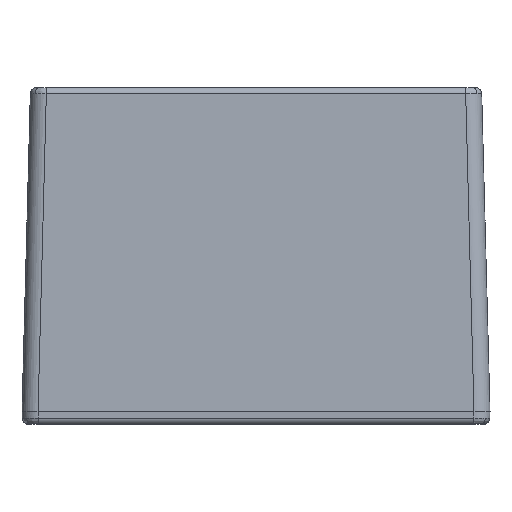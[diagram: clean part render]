
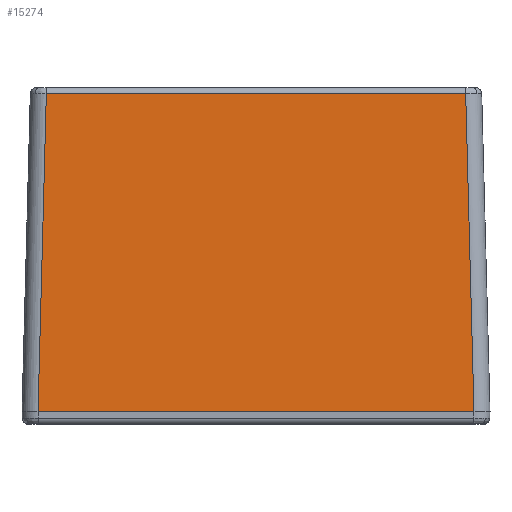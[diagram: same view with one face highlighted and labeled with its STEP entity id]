
A CAD part, left-side view. The second image highlights one B-rep face of the part: STEP entity #15274.
In plain terms, the highlighted planar face has unit normal (-1, 0, 0.026).
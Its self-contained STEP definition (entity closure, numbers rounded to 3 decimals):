
#529=LINE('',#22615,#1671);
#530=LINE('',#22617,#1672);
#531=LINE('',#22619,#1673);
#532=LINE('',#22620,#1674);
#1671=VECTOR('',#17369,99.12);
#1672=VECTOR('',#17370,130.816);
#1673=VECTOR('',#17371,99.12);
#1674=VECTOR('',#17372,136.003);
#2729=PLANE('',#16225);
#4105=FACE_OUTER_BOUND('',#5049,.T.);
#5049=EDGE_LOOP('',(#10684,#10685,#10686,#10687));
#6491=VERTEX_POINT('',#20465);
#6730=VERTEX_POINT('',#22614);
#6731=VERTEX_POINT('',#22616);
#6732=VERTEX_POINT('',#22618);
#8295=EDGE_CURVE('',#6730,#6491,#529,.T.);
#8296=EDGE_CURVE('',#6491,#6731,#530,.T.);
#8297=EDGE_CURVE('',#6731,#6732,#531,.T.);
#8298=EDGE_CURVE('',#6732,#6730,#532,.T.);
#10684=ORIENTED_EDGE('',*,*,#8295,.T.);
#10685=ORIENTED_EDGE('',*,*,#8296,.T.);
#10686=ORIENTED_EDGE('',*,*,#8297,.T.);
#10687=ORIENTED_EDGE('',*,*,#8298,.T.);
#15274=ADVANCED_FACE('',(#4105),#2729,.T.);
#16225=AXIS2_PLACEMENT_3D('',#22613,#17367,#17368);
#17367=DIRECTION('center_axis',(-1.,0.,
0.026));
#17368=DIRECTION('ref_axis',(0.026,0.,1.));
#17369=DIRECTION('',(0.026,0.026,0.999));
#17370=DIRECTION('',(0.,1.,0.));
#17371=DIRECTION('',(-0.026,0.026,-0.999));
#17372=DIRECTION('',(0.,-1.,0.));
#20465=CARTESIAN_POINT('',(-108.406,-65.408,99.052));
#22613=CARTESIAN_POINT('Origin',(-111.,73.,0.));
#22614=CARTESIAN_POINT('',(-111.,-68.002,0.));
#22615=CARTESIAN_POINT('',(-111.,-68.002,0.));
#22616=CARTESIAN_POINT('',(-108.406,65.408,99.052));
#22617=CARTESIAN_POINT('',(-108.406,-65.408,99.052));
#22618=CARTESIAN_POINT('',(-111.,68.002,0.));
#22619=CARTESIAN_POINT('',(-108.406,65.408,99.052));
#22620=CARTESIAN_POINT('',(-111.,68.002,0.));
